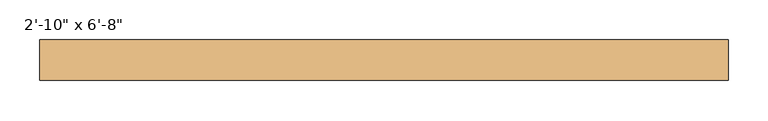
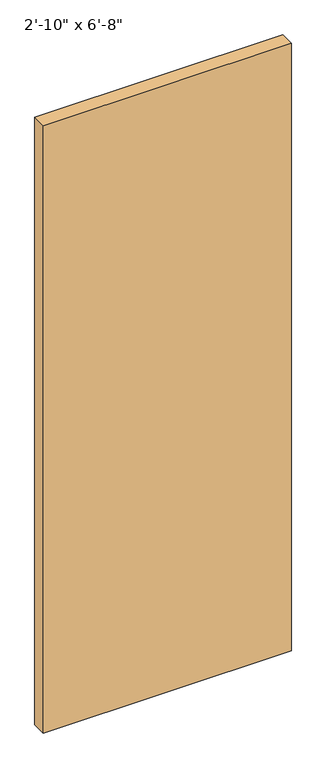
"""IFC4 building model written with IfcOpenShell, lengths in millimetres: door geometry."""

import ifcopenshell
import ifcopenshell.guid

model = None  # the IFC model being written
_history = None  # IfcOwnerHistory: only IFC2X3 demands one
_inside = {}  # id of a spatial element -> (the spatial element, [elements in it])
_under = {}  # id of a project, library or spatial element -> (it, [spatial elements below it])
_declared = {}  # id of a project -> (the project, [libraries it declares])
_typed = {}  # id of a type object -> (the type object, [elements of that type])
_made_of = {}  # id of a material, layer set ... -> (it, [elements and type objects made of it])


def new_model(schema):
    """Start an empty IFC model of exactly this schema.

    Asked for "IFC4X3", IfcOpenShell would pick the latest addendum, in which some entities
    have other attributes; the version numbers below select the first issue.
    IFC2X3 requires an IfcOwnerHistory on every rooted entity: one is made here for all.
    """
    global model, _history
    if schema == "IFC4X3":
        model = ifcopenshell.file(schema_version=(4, 3, 0, 0))
    else:
        model = ifcopenshell.file(schema=schema)
    _inside.clear()
    _under.clear()
    _declared.clear()
    _typed.clear()
    _made_of.clear()
    _history = None
    if model.schema == "IFC2X3":
        org = make("IfcOrganization", Name="unknown")
        user = make(
            "IfcPersonAndOrganization",
            ThePerson=make("IfcPerson", FamilyName="unknown"),
            TheOrganization=org,
        )
        app = make(
            "IfcApplication",
            ApplicationDeveloper=org,
            Version="unknown",
            ApplicationFullName="unknown",
            ApplicationIdentifier="unknown",
        )
        _history = make(
            "IfcOwnerHistory",
            OwningUser=user,
            OwningApplication=app,
            ChangeAction="ADDED",
            CreationDate=0,
        )
    return model


def make(cls, **values):
    """One entity of the class cls with the attributes given. An attribute that is None is left unset."""
    return model.create_entity(
        cls, **{name: value for name, value in values.items() if value is not None}
    )


def rooted(cls, **values):
    """An entity with a GlobalId (a new one), such as an element, a storey or a relation."""
    return make(cls, GlobalId=ifcopenshell.guid.new(), OwnerHistory=_history, **values)


def si_unit(unit_type, name, prefix=None):
    """IfcSIUnit, for example si_unit("LENGTHUNIT", "METRE", prefix="MILLI")."""
    return make("IfcSIUnit", UnitType=unit_type, Prefix=prefix, Name=name)


def assignment(units):
    """IfcUnitAssignment: the units of a project."""
    return None if units is None else make("IfcUnitAssignment", Units=units)


def point(xyz):
    """IfcCartesianPoint."""
    return None if xyz is None else make("IfcCartesianPoint", Coordinates=xyz)


def direction(xyz):
    """IfcDirection."""
    return None if xyz is None else make("IfcDirection", DirectionRatios=xyz)


def frame(location, z_axis=None, x_axis=None):
    """IfcAxis2Placement3D, a coordinate frame: its origin and axes. An axis left out is left unset."""
    return make(
        "IfcAxis2Placement3D",
        Location=point(location),
        Axis=direction(z_axis),
        RefDirection=direction(x_axis),
    )


def origin():
    """The frame at (0, 0, 0) with its axes left unset."""
    return frame((0.0, 0.0, 0.0))


def origin_with_axes():
    """The frame at (0, 0, 0) with the z axis (0, 0, 1) and the x axis (1, 0, 0) written out."""
    return frame((0.0, 0.0, 0.0), z_axis=(0.0, 0.0, 1.0), x_axis=(1.0, 0.0, 0.0))


def place(relative_to, where):
    """IfcLocalPlacement: puts the frame where relative to a parent placement (None: the world)."""
    return make(
        "IfcLocalPlacement", PlacementRelTo=relative_to, RelativePlacement=where
    )


def context(
    kind, dimensions, precision=None, world=None, true_north=None, identifier=None
):
    """IfcGeometricRepresentationContext, for example the 3D "Model" context."""
    return make(
        "IfcGeometricRepresentationContext",
        ContextIdentifier=identifier,
        ContextType=kind,
        CoordinateSpaceDimension=dimensions,
        Precision=precision,
        WorldCoordinateSystem=world,
        TrueNorth=true_north,
    )


def project(units=None, contexts=None):
    """IfcProject with its units and contexts."""
    return rooted(
        "IfcProject",
        Name="project",
        RepresentationContexts=contexts,
        UnitsInContext=assignment(units),
    )


def spatial(cls, under=None, at=None, **own):
    """A site, building, storey or space (cls), placed at a placement, below another one or the project."""
    s = rooted(cls, ObjectPlacement=at, **own)
    if under is not None:
        _under.setdefault(under.id(), (under, []))[1].append(s)
    return s


def polyline(points):
    """IfcPolyline through the points."""
    return make("IfcPolyline", Points=[point(p) for p in points])


def outline(outer, holes=None, kind="AREA"):
    """IfcArbitraryClosedProfileDef: a profile drawn as a closed curve; with holes, ...WithVoids."""
    if holes is None:
        return make("IfcArbitraryClosedProfileDef", ProfileType=kind, OuterCurve=outer)
    return make(
        "IfcArbitraryProfileDefWithVoids",
        ProfileType=kind,
        OuterCurve=outer,
        InnerCurves=holes,
    )


def extrude(swept, where, along, depth):
    """IfcExtrudedAreaSolid: the profile swept, set in the frame where, extruded along a direction by depth."""
    return make(
        "IfcExtrudedAreaSolid",
        SweptArea=swept,
        Position=where,
        ExtrudedDirection=direction(along),
        Depth=depth,
    )


def shape(context_of_items, identifier, shape_type, items):
    """IfcShapeRepresentation: the items that make up one representation, for example the "Body"."""
    return make(
        "IfcShapeRepresentation",
        ContextOfItems=context_of_items,
        RepresentationIdentifier=identifier,
        RepresentationType=shape_type,
        Items=items,
    )


def source(mapping_origin, context_of_items, identifier, shape_type, items):
    """IfcRepresentationMap: a shape defined once, which mapped items show again and again."""
    return make(
        "IfcRepresentationMap",
        MappingOrigin=mapping_origin,
        MappedRepresentation=shape(context_of_items, identifier, shape_type, items),
    )


def transform(
    local_origin,
    x_axis=None,
    y_axis=None,
    z_axis=None,
    scale=None,
    scale2=None,
    scale3=None,
    uniform=True,
):
    """IfcCartesianTransformationOperator3D, or its non-uniform kind. x_axis, y_axis, z_axis: its Axis1, 2, 3."""
    if uniform:
        return make(
            "IfcCartesianTransformationOperator3D",
            Axis1=direction(x_axis),
            Axis2=direction(y_axis),
            LocalOrigin=point(local_origin),
            Scale=scale,
            Axis3=direction(z_axis),
        )
    return make(
        "IfcCartesianTransformationOperator3DnonUniform",
        Axis1=direction(x_axis),
        Axis2=direction(y_axis),
        LocalOrigin=point(local_origin),
        Scale=scale,
        Axis3=direction(z_axis),
        Scale2=scale2,
        Scale3=scale3,
    )


def mapped(mapping_source, mapping_target):
    """IfcMappedItem: shows the shape of a source again, moved by a transform."""
    return make(
        "IfcMappedItem", MappingSource=mapping_source, MappingTarget=mapping_target
    )


def made_of(thing, what):
    """Note that an element or type object is made of a material, layer set ...; save() writes the relation."""
    if what is not None:
        _made_of.setdefault(what.id(), (what, []))[1].append(thing)
    return thing


def element(
    cls,
    number,
    at=None,
    inside=None,
    cuts=None,
    type_object=None,
    material=None,
    context=None,
    identifier="Body",
    shape_type=None,
    held_by="IfcProductDefinitionShape",
    body=None,
    shapes=None,
    **own,
):
    """One element of the class cls, such as IfcWall. Its Tag is "e" and its number.

    at: its placement. inside: the storey or other place that contains it. cuts: it is an
    opening in that element (IfcRelVoidsElement). A single representation is given by context,
    identifier, shape_type and body (its items); several are given by shapes. held_by: the class
    of the entity that holds the representations. save() writes the other relations.
    """
    e = rooted(cls, Tag="e%d" % number, ObjectPlacement=at, **own)
    if body is not None:
        shapes = [shape(context, identifier, shape_type, body)]
    if shapes is not None:
        e.Representation = make(held_by, Representations=shapes)
    if inside is not None:
        _inside.setdefault(inside.id(), (inside, []))[1].append(e)
    if cuts is not None:
        rooted(
            "IfcRelVoidsElement", RelatingBuildingElement=cuts, RelatedOpeningElement=e
        )
    if type_object is not None:
        _typed.setdefault(type_object.id(), (type_object, []))[1].append(e)
    return made_of(e, material)


def aggregate(whole, parts):
    """IfcRelAggregates: a whole, such as a stair, and the parts it consists of."""
    return rooted("IfcRelAggregates", RelatingObject=whole, RelatedObjects=parts)


def save(model, path):
    """Write the relations noted so far, then the file.

    IfcRelAggregates (storeys below a building ...), IfcRelContainedInSpatialStructure (elements
    in a storey), IfcRelDefinesByType, IfcRelAssociatesMaterial and IfcRelDeclares: one each for
    every whole, place, type object, material and project.
    """
    for whole, parts in _under.values():
        aggregate(whole, parts)
    for where, things in _inside.values():
        rooted(
            "IfcRelContainedInSpatialStructure",
            RelatedElements=things,
            RelatingStructure=where,
        )
    for kind, things in _typed.values():
        rooted("IfcRelDefinesByType", RelatedObjects=things, RelatingType=kind)
    for what, things in _made_of.values():
        rooted("IfcRelAssociatesMaterial", RelatedObjects=things, RelatingMaterial=what)
    for by, libraries in _declared.values():
        rooted("IfcRelDeclares", RelatingContext=by, RelatedDefinitions=libraries)
    model.write(path)


def door_ef416415(model_context):
    return source(origin(), model_context, "Body", "SweptSolid", [
        extrude(outline(polyline([(431.8, 38.3), (431.8, -12.7), (-431.8, -12.7), (-431.8, 38.3), (431.8, 38.3)])), origin_with_axes(), (0.0, 0.0, 1.0), 2235.2),
    ])


if __name__ == "__main__":
    model = new_model("IFC4")
    model_context = context("Model", 3, world=origin())
    ifc_project = project(units=[si_unit("LENGTHUNIT", "METRE", prefix="MILLI")], contexts=[model_context])
    site = spatial("IfcSite", under=ifc_project)
    building = spatial("IfcBuilding", under=site)
    placement = place(None, origin())
    door_shape = door_ef416415(model_context)
    element("IfcDoor", 1, ObjectType="Planitar - Single Door_Flush Panel : 2'-10\" x 6'-8\"", at=placement, inside=building, context=model_context, shape_type="MappedRepresentation", body=[
        mapped(door_shape, transform((0.0, 0.0, 0.0), x_axis=(1.0, 0.0, 0.0), y_axis=(0.0, 1.0, 0.0), z_axis=(0.0, 0.0, 1.0))),
    ])
    save(model, "model.ifc")
